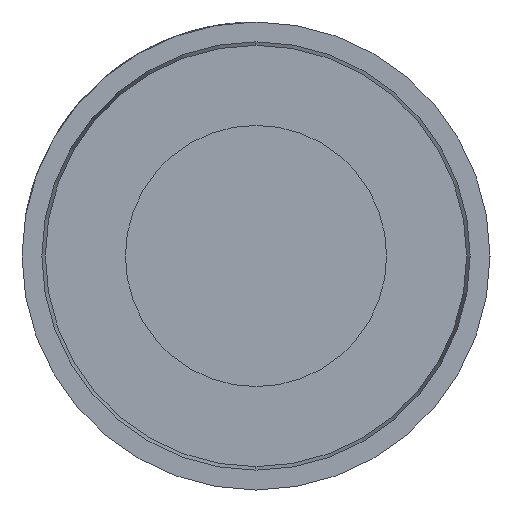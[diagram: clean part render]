
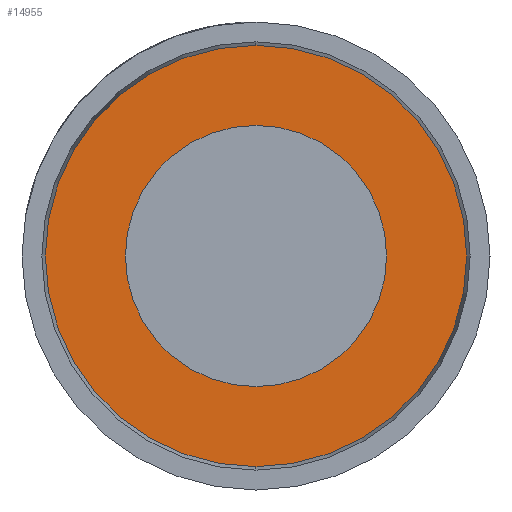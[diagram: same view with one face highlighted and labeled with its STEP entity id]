
A CAD part, left-side view. The second image highlights one B-rep face of the part: STEP entity #14955.
In plain terms, the highlighted planar face has unit normal (-1, 0, 0).
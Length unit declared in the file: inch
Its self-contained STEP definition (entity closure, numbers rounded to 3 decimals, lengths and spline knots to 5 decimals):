
#366 = EDGE_LOOP ( 'NONE', ( #15514, #14194 ) ) ;
#1273 = DIRECTION ( 'NONE',  ( 0., 0., -1. ) ) ;
#2057 = CARTESIAN_POINT ( 'NONE',  ( 0., 0., 0. ) ) ;
#2782 = CIRCLE ( 'NONE', #9206, 0.06975 ) ;
#2915 = DIRECTION ( 'NONE',  ( 1., 0., 0. ) ) ;
#4349 = VERTEX_POINT ( 'NONE', #5569 ) ;
#4513 = FACE_BOUND ( 'NONE', #10307, .T. ) ;
#4621 = PLANE ( 'NONE',  #20726 ) ;
#5154 = CIRCLE ( 'NONE', #18990, 0.1125 ) ;
#5221 = DIRECTION ( 'NONE',  ( -1., 0., 0. ) ) ;
#5569 = CARTESIAN_POINT ( 'NONE',  ( 0., 0., 0.1125 ) ) ;
#5707 = DIRECTION ( 'NONE',  ( -1., 0., 0. ) ) ;
#7318 = AXIS2_PLACEMENT_3D ( 'NONE', #17233, #5707, #12370 ) ;
#8413 = CIRCLE ( 'NONE', #7318, 0.1125 ) ;
#8594 = DIRECTION ( 'NONE',  ( 0., 0., 1. ) ) ;
#9206 = AXIS2_PLACEMENT_3D ( 'NONE', #2057, #19050, #18718 ) ;
#9735 = EDGE_CURVE ( 'NONE', #16375, #20371, #2782, .T. ) ;
#10276 = DIRECTION ( 'NONE',  ( -1., 0., 0. ) ) ;
#10307 = EDGE_LOOP ( 'NONE', ( #18882, #19125 ) ) ;
#10859 = VERTEX_POINT ( 'NONE', #19552 ) ;
#12370 = DIRECTION ( 'NONE',  ( 0., 0., 1. ) ) ;
#13146 = CARTESIAN_POINT ( 'NONE',  ( 0., 0., -0.06975 ) ) ;
#13727 = CARTESIAN_POINT ( 'NONE',  ( 0., 0., 0. ) ) ;
#14194 = ORIENTED_EDGE ( 'NONE', *, *, #19842, .T. ) ;
#14703 = CIRCLE ( 'NONE', #16817, 0.06975 ) ;
#14955 = ADVANCED_FACE ( 'NONE', ( #4513, #15043 ), #4621, .F. ) ;
#15043 = FACE_OUTER_BOUND ( 'NONE', #366, .T. ) ;
#15514 = ORIENTED_EDGE ( 'NONE', *, *, #17548, .T. ) ;
#15575 = CARTESIAN_POINT ( 'NONE',  ( 0., 0., 0.06975 ) ) ;
#16273 = EDGE_CURVE ( 'NONE', #20371, #16375, #14703, .T. ) ;
#16375 = VERTEX_POINT ( 'NONE', #15575 ) ;
#16491 = CARTESIAN_POINT ( 'NONE',  ( 0., 0., 0. ) ) ;
#16817 = AXIS2_PLACEMENT_3D ( 'NONE', #13727, #10276, #8594 ) ;
#17233 = CARTESIAN_POINT ( 'NONE',  ( 0., 0., 0. ) ) ;
#17548 = EDGE_CURVE ( 'NONE', #4349, #10859, #8413, .T. ) ;
#18718 = DIRECTION ( 'NONE',  ( 0., 0., 1. ) ) ;
#18757 = DIRECTION ( 'NONE',  ( 0., 0., 1. ) ) ;
#18882 = ORIENTED_EDGE ( 'NONE', *, *, #9735, .F. ) ;
#18990 = AXIS2_PLACEMENT_3D ( 'NONE', #20299, #5221, #18757 ) ;
#19050 = DIRECTION ( 'NONE',  ( -1., 0., 0. ) ) ;
#19125 = ORIENTED_EDGE ( 'NONE', *, *, #16273, .F. ) ;
#19552 = CARTESIAN_POINT ( 'NONE',  ( 0., 0., -0.1125 ) ) ;
#19842 = EDGE_CURVE ( 'NONE', #10859, #4349, #5154, .T. ) ;
#20299 = CARTESIAN_POINT ( 'NONE',  ( 0., 0., 0. ) ) ;
#20371 = VERTEX_POINT ( 'NONE', #13146 ) ;
#20726 = AXIS2_PLACEMENT_3D ( 'NONE', #16491, #2915, #1273 ) ;
